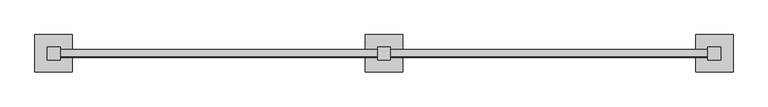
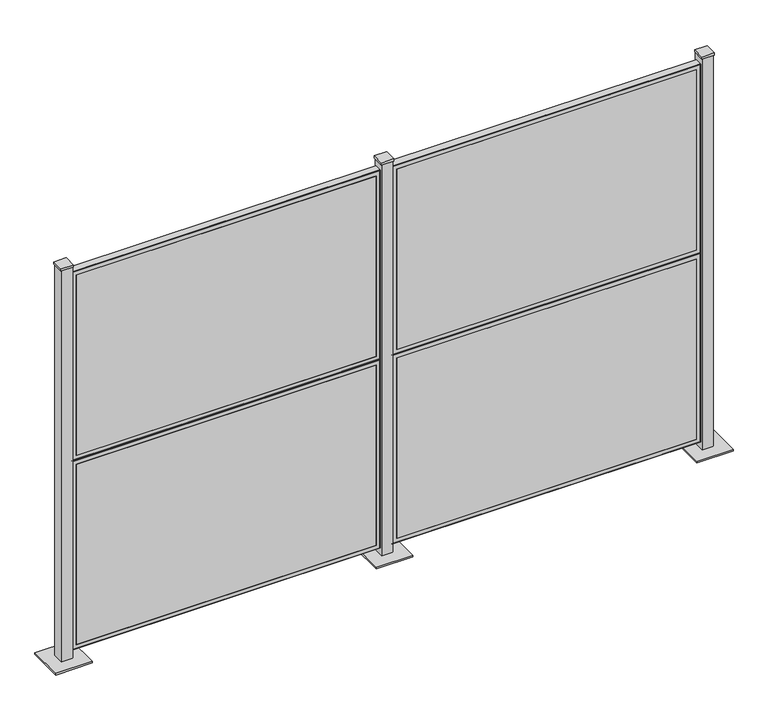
"""IFC4 building model written with IfcOpenShell, lengths in millimetres: proxy geometry, VIVA-Railings_Special-Equipment_Architectural-Fence-&-Landscape-Screens : 68” x 88” - Aluminum 1/8''."""

from ifc_helpers import new_model, si_unit, frame, origin, origin_with_axes, place, context, project, spatial, polyline, ellipse_curve, outline, extrude, source, transform, mapped, element, save
from ifc_brep_helpers import plane_surface, cylinder_surface, revolved_surface, advanced_brep


def specialty_equipment_d36daebb(model_context):
    return source(origin(), model_context, "Body", "SolidModel", [
        extrude(outline(polyline([(3784.6, 101.6), (3784.6, -101.6), (3581.4, -101.6), (3581.4, 101.6), (3784.6, 101.6)])), origin_with_axes(), (0.0, 0.0, 1.0), 9.525),
        extrude(outline(polyline([(3717.925, -34.925), (3648.075, -34.925), (3648.075, 34.925), (3717.925, 34.925), (3717.925, -34.925)])), frame((0.0, 0.0, 2324.1), z_axis=(0.0, 0.0, 1.0), x_axis=(1.0, 0.0, 0.0)), (0.0, 0.0, 1.0), 12.7),
        extrude(outline(polyline([(3651.25, 31.75), (3714.75, 31.75), (3714.75, -31.75), (3651.25, -31.75), (3651.25, 31.75)]), holes=[polyline([(3654.425, -28.575), (3711.575, -28.575), (3711.575, 28.575), (3654.425, 28.575), (3654.425, -28.575)])]), frame((0.0, 0.0, 9.525), z_axis=(0.0, 0.0, 1.0), x_axis=(1.0, 0.0, 0.0)), (0.0, 0.0, 1.0), 2314.575),
        advanced_brep(
        [(3651.25, 22.225, 1168.425), (3651.25, -19.05, 1168.425), (3651.25, -19.05, 50.825), (3651.25, 22.225, 50.825), (3648.075, -17.4625, 1165.25), (3648.075, 22.225, 1165.25), (3648.075, 22.225, 54.0), (3648.075, -17.4625, 54.0), (3646.4875, -19.05, 1163.6625), (3646.4875, -19.05, 55.5875), (3625.85, -22.225, 1143.025), (3625.85, -19.05, 1143.025), (3625.85, -19.05, 76.225), (3625.85, -22.225, 76.225), (3648.075, -22.225, 1165.25), (3648.075, -22.225, 54.0), (1924.05, -19.05, 50.825), (1924.05, 22.225, 50.825), (1927.225, 22.225, 54.0), (1927.225, -17.4625, 54.0), (1928.8125, -19.05, 55.5875), (1949.45, -19.05, 76.225), (1949.45, -22.225, 76.225), (1927.225, -22.225, 54.0), (1924.05, -19.05, 1168.425), (1924.05, 22.225, 1168.425), (1927.225, 22.225, 1165.25), (1927.225, -17.4625, 1165.25), (1928.8125, -19.05, 1163.6625), (1949.45, -19.05, 1143.025), (1949.45, -22.225, 1143.025), (1927.225, -22.225, 1165.25)],
        [
            (0, 1),
            (1, 2),
            (2, 3),
            (3, 0),
            (4, 5),
            (5, 6),
            (6, 7),
            (7, 4),
            (8, 4, ellipse_curve(frame((3646.4875, -17.4625, 1163.6625), z_axis=(-0.7071067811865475, 0.0, 0.7071067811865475), x_axis=(-0.7071067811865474, 0.0, -0.7071067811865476)), 2.245064, 1.5875)),
            (7, 9, ellipse_curve(frame((3646.4875, -17.4625, 55.5875), z_axis=(-0.7071067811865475, 0.0, -0.7071067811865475), x_axis=(0.7071067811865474, 0.0, -0.7071067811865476)), 2.245064, 1.5875)),
            (9, 8),
            (10, 11),
            (11, 12),
            (12, 13),
            (13, 10),
            (1, 14, ellipse_curve(frame((3648.075, -19.05, 1165.25), z_axis=(0.7071067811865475, 0.0, -0.7071067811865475), x_axis=(0.7071067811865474, 0.0, 0.7071067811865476)), 4.4901281, 3.175)),
            (14, 15),
            (15, 2, ellipse_curve(frame((3648.075, -19.05, 54.0), z_axis=(0.7071067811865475, 0.0, 0.7071067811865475), x_axis=(-0.7071067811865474, 0.0, 0.7071067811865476)), 4.4901281, 3.175)),
            (2, 16),
            (16, 17),
            (17, 3),
            (6, 18),
            (18, 19),
            (19, 7),
            (19, 20, ellipse_curve(frame((1928.8125, -17.4625, 55.5875), z_axis=(-0.7071067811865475, 0.0, 0.7071067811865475), x_axis=(-0.7071067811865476, 0.0, -0.7071067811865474)), 2.245064, 1.5875)),
            (20, 9),
            (12, 21),
            (21, 22),
            (22, 13),
            (15, 23),
            (23, 16, ellipse_curve(frame((1927.225, -19.05, 54.0), z_axis=(0.7071067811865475, 0.0, -0.7071067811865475), x_axis=(0.7071067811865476, 0.0, 0.7071067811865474)), 4.4901281, 3.175)),
            (16, 24),
            (24, 25),
            (25, 17),
            (18, 26),
            (26, 27),
            (27, 19),
            (27, 28, ellipse_curve(frame((1928.8125, -17.4625, 1163.6625), z_axis=(0.7071067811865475, 0.0, 0.7071067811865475), x_axis=(-0.7071067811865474, 0.0, 0.7071067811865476)), 2.245064, 1.5875)),
            (28, 20),
            (21, 29),
            (29, 30),
            (30, 22),
            (23, 31),
            (31, 24, ellipse_curve(frame((1927.225, -19.05, 1165.25), z_axis=(-0.7071067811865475, 0.0, -0.7071067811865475), x_axis=(0.7071067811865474, 0.0, -0.7071067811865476)), 4.4901281, 3.175)),
            (24, 1),
            (0, 25),
            (5, 26),
            (4, 27),
            (8, 28),
            (11, 29),
            (10, 30),
            (14, 31),
        ],
        [
            plane_surface(frame((3651.25, -19.05, 1168.425), z_axis=(1.0, 0.0, 0.0), x_axis=(0.0, 0.0, -1.0))),
            plane_surface(frame((3648.075, 22.225, 1165.25), z_axis=(-1.0, 0.0, 0.0), x_axis=(0.0, 0.0, -1.0))),
            revolved_surface(polyline([(3648.0750000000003, -17.4625, 54.0), (3648.0750000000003, -17.4625, 1165.25)]), (3646.4875, -17.4625, 1168.425), (0.0, 0.0, -1.0)),
            plane_surface(frame((3625.85, -19.05, 1143.025), z_axis=(-1.0, 0.0, 0.0), x_axis=(0.0, 0.0, -1.0))),
            cylinder_surface(frame((3648.075, -19.05, 1168.425), z_axis=(0.0, 0.0, 1.0), x_axis=(1.0, 0.0, 0.0)), 3.175),
            plane_surface(frame((3651.25, -19.05, 50.825), z_axis=(0.0, 0.0, -1.0), x_axis=(-1.0, 0.0, 0.0))),
            plane_surface(frame((3648.075, 22.225, 54.0), z_axis=(0.0, 0.0, 1.0), x_axis=(-1.0, 0.0, 0.0))),
            revolved_surface(polyline([(1927.225, -17.4625, 54.0), (3648.075, -17.4625, 54.0)]), (3651.25, -17.4625, 55.5875), (-1.0, 0.0, 0.0)),
            plane_surface(frame((3625.85, -19.05, 76.225), z_axis=(0.0, 0.0, 1.0), x_axis=(-1.0, 0.0, 0.0))),
            cylinder_surface(frame((3651.25, -19.05, 54.0), z_axis=(1.0, 0.0, 0.0), x_axis=(0.0, 0.0, -1.0)), 3.175),
            plane_surface(frame((1924.05, -19.05, 50.825), z_axis=(-1.0, 0.0, 0.0), x_axis=(0.0, 0.0, 1.0))),
            plane_surface(frame((1927.225, 22.225, 54.0), z_axis=(1.0, 0.0, 0.0), x_axis=(0.0, 0.0, 1.0))),
            revolved_surface(polyline([(1927.225, -17.4625, 1165.25), (1927.225, -17.4625, 54.0)]), (1928.8125, -17.4625, 50.825), (0.0, 0.0, 1.0)),
            plane_surface(frame((1949.45, -19.05, 76.225), z_axis=(1.0, 0.0, 0.0), x_axis=(0.0, 0.0, 1.0))),
            cylinder_surface(frame((1927.225, -19.05, 50.825), z_axis=(0.0, 0.0, -1.0), x_axis=(-1.0, 0.0, 0.0)), 3.175),
            plane_surface(frame((1924.05, -19.05, 1168.425), z_axis=(0.0, 0.0, 1.0), x_axis=(1.0, 0.0, 0.0))),
            plane_surface(frame((1924.05, 22.225, 1168.425), z_axis=(0.0, 1.0, 0.0), x_axis=(1.0, 0.0, 0.0))),
            plane_surface(frame((1927.225, 22.225, 1165.25), z_axis=(0.0, 0.0, -1.0), x_axis=(1.0, 0.0, 0.0))),
            revolved_surface(polyline([(3648.075, -17.4625, 1165.25), (1927.225, -17.4625, 1165.25)]), (1924.05, -17.4625, 1163.6625), (1.0, 0.0, 0.0)),
            plane_surface(frame((1928.8125, -19.05, 1163.6625), z_axis=(0.0, 1.0, 0.0), x_axis=(1.0, 0.0, 0.0))),
            plane_surface(frame((1949.45, -19.05, 1143.025), z_axis=(0.0, 0.0, -1.0), x_axis=(1.0, 0.0, 0.0))),
            plane_surface(frame((1949.45, -22.225, 1143.025), z_axis=(0.0, -1.0, 0.0), x_axis=(1.0, 0.0, 0.0))),
            cylinder_surface(frame((1924.05, -19.05, 1165.25), z_axis=(-1.0, 0.0, 0.0), x_axis=(0.0, 0.0, 1.0)), 3.175),
        ],
        [
            (0, [[1, 2, 3, 4]]),
            (1, [[5, 6, 7, 8]]),
            (2, [[9, -8, 10, 11]]),
            (3, [[12, 13, 14, 15]]),
            (4, [[16, 17, 18, -2]]),
            (5, [[-3, 19, 20, 21]]),
            (6, [[-7, 22, 23, 24]]),
            (7, [[-10, -24, 25, 26]]),
            (8, [[-14, 27, 28, 29]]),
            (9, [[-18, 30, 31, -19]]),
            (10, [[-20, 32, 33, 34]]),
            (11, [[-23, 35, 36, 37]]),
            (12, [[-25, -37, 38, 39]]),
            (13, [[-28, 40, 41, 42]]),
            (14, [[-31, 43, 44, -32]]),
            (15, [[-33, 45, -1, 46]]),
            (16, [[-21, -34, -46, -4], [47, -35, -22, -6]]),
            (17, [[-36, -47, -5, 48]]),
            (18, [[-38, -48, -9, 49]]),
            (19, [[-26, -39, -49, -11], [50, -40, -27, -13]]),
            (20, [[-41, -50, -12, 51]]),
            (21, [[52, -43, -30, -17], [-29, -42, -51, -15]]),
            (22, [[-44, -52, -16, -45]]),
        ],
    ),
        advanced_brep(
        [(1860.55, 22.225, 1168.425), (1860.55, -19.05, 1168.425), (1860.55, -19.05, 50.825), (1860.55, 22.225, 50.825), (1857.375, -17.4625, 1165.25), (1857.375, 22.225, 1165.25), (1857.375, 22.225, 54.0), (1857.375, -17.4625, 54.0), (1855.7875, -19.05, 1163.6625), (1855.7875, -19.05, 55.5875), (1835.15, -22.225, 1143.025), (1835.15, -19.05, 1143.025), (1835.15, -19.05, 76.225), (1835.15, -22.225, 76.225), (1857.375, -22.225, 1165.25), (1857.375, -22.225, 54.0), (133.35, -19.05, 50.825), (133.35, 22.225, 50.825), (136.525, 22.225, 54.0), (136.525, -17.4625, 54.0), (138.1125, -19.05, 55.5875), (158.75, -19.05, 76.225), (158.75, -22.225, 76.225), (136.525, -22.225, 54.0), (133.35, -19.05, 1168.425), (133.35, 22.225, 1168.425), (136.525, 22.225, 1165.25), (136.525, -17.4625, 1165.25), (138.1125, -19.05, 1163.6625), (158.75, -19.05, 1143.025), (158.75, -22.225, 1143.025), (136.525, -22.225, 1165.25)],
        [
            (0, 1),
            (1, 2),
            (2, 3),
            (3, 0),
            (4, 5),
            (5, 6),
            (6, 7),
            (7, 4),
            (8, 4, ellipse_curve(frame((1855.7875, -17.4625, 1163.6625), z_axis=(-0.7071067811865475, 0.0, 0.7071067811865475), x_axis=(-0.7071067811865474, 0.0, -0.7071067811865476)), 2.245064, 1.5875)),
            (7, 9, ellipse_curve(frame((1855.7875, -17.4625, 55.5875), z_axis=(-0.7071067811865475, 0.0, -0.7071067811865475), x_axis=(0.7071067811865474, 0.0, -0.7071067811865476)), 2.245064, 1.5875)),
            (9, 8),
            (10, 11),
            (11, 12),
            (12, 13),
            (13, 10),
            (1, 14, ellipse_curve(frame((1857.375, -19.05, 1165.25), z_axis=(0.7071067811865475, 0.0, -0.7071067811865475), x_axis=(0.7071067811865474, 0.0, 0.7071067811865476)), 4.4901281, 3.175)),
            (14, 15),
            (15, 2, ellipse_curve(frame((1857.375, -19.05, 54.0), z_axis=(0.7071067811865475, 0.0, 0.7071067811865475), x_axis=(-0.7071067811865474, 0.0, 0.7071067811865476)), 4.4901281, 3.175)),
            (2, 16),
            (16, 17),
            (17, 3),
            (6, 18),
            (18, 19),
            (19, 7),
            (19, 20, ellipse_curve(frame((138.1125, -17.4625, 55.5875), z_axis=(-0.7071067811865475, 0.0, 0.7071067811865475), x_axis=(-0.7071067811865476, 0.0, -0.7071067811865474)), 2.245064, 1.5875)),
            (20, 9),
            (12, 21),
            (21, 22),
            (22, 13),
            (15, 23),
            (23, 16, ellipse_curve(frame((136.525, -19.05, 54.0), z_axis=(0.7071067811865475, 0.0, -0.7071067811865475), x_axis=(0.7071067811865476, 0.0, 0.7071067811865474)), 4.4901281, 3.175)),
            (16, 24),
            (24, 25),
            (25, 17),
            (18, 26),
            (26, 27),
            (27, 19),
            (27, 28, ellipse_curve(frame((138.1125, -17.4625, 1163.6625), z_axis=(0.7071067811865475, 0.0, 0.7071067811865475), x_axis=(-0.7071067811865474, 0.0, 0.7071067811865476)), 2.245064, 1.5875)),
            (28, 20),
            (21, 29),
            (29, 30),
            (30, 22),
            (23, 31),
            (31, 24, ellipse_curve(frame((136.525, -19.05, 1165.25), z_axis=(-0.7071067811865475, 0.0, -0.7071067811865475), x_axis=(0.7071067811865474, 0.0, -0.7071067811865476)), 4.4901281, 3.175)),
            (24, 1),
            (0, 25),
            (5, 26),
            (4, 27),
            (8, 28),
            (11, 29),
            (10, 30),
            (14, 31),
        ],
        [
            plane_surface(frame((1860.55, -19.05, 1168.425), z_axis=(1.0, 0.0, 0.0), x_axis=(0.0, 0.0, -1.0))),
            plane_surface(frame((1857.375, 22.225, 1165.25), z_axis=(-1.0, 0.0, 0.0), x_axis=(0.0, 0.0, -1.0))),
            revolved_surface(polyline([(1857.375, -17.4625, 54.0), (1857.375, -17.4625, 1165.25)]), (1855.7875, -17.4625, 1168.425), (0.0, 0.0, -1.0)),
            plane_surface(frame((1835.15, -19.05, 1143.025), z_axis=(-1.0, 0.0, 0.0), x_axis=(0.0, 0.0, -1.0))),
            cylinder_surface(frame((1857.375, -19.05, 1168.425), z_axis=(0.0, 0.0, 1.0), x_axis=(1.0, 0.0, 0.0)), 3.175),
            plane_surface(frame((1860.55, -19.05, 50.825), z_axis=(0.0, 0.0, -1.0), x_axis=(-1.0, 0.0, 0.0))),
            plane_surface(frame((1857.375, 22.225, 54.0), z_axis=(0.0, 0.0, 1.0), x_axis=(-1.0, 0.0, 0.0))),
            revolved_surface(polyline([(136.5250000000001, -17.4625, 54.0), (1857.375, -17.4625, 54.0)]), (1860.55, -17.4625, 55.5875), (-1.0, 0.0, 0.0)),
            plane_surface(frame((1835.15, -19.05, 76.225), z_axis=(0.0, 0.0, 1.0), x_axis=(-1.0, 0.0, 0.0))),
            cylinder_surface(frame((1860.55, -19.05, 54.0), z_axis=(1.0, 0.0, 0.0), x_axis=(0.0, 0.0, -1.0)), 3.175),
            plane_surface(frame((133.35, -19.05, 50.825), z_axis=(-1.0, 0.0, 0.0), x_axis=(0.0, 0.0, 1.0))),
            plane_surface(frame((136.525, 22.225, 54.0), z_axis=(1.0, 0.0, 0.0), x_axis=(0.0, 0.0, 1.0))),
            revolved_surface(polyline([(136.525, -17.4625, 1165.25), (136.525, -17.4625, 54.0)]), (138.1125, -17.4625, 50.825), (0.0, 0.0, 1.0)),
            plane_surface(frame((158.75, -19.05, 76.225), z_axis=(1.0, 0.0, 0.0), x_axis=(0.0, 0.0, 1.0))),
            cylinder_surface(frame((136.525, -19.05, 50.825), z_axis=(0.0, 0.0, -1.0), x_axis=(-1.0, 0.0, 0.0)), 3.175),
            plane_surface(frame((133.35, -19.05, 1168.425), z_axis=(0.0, 0.0, 1.0), x_axis=(1.0, 0.0, 0.0))),
            plane_surface(frame((133.35, 22.225, 1168.425), z_axis=(0.0, 1.0, 0.0), x_axis=(1.0, 0.0, 0.0))),
            plane_surface(frame((136.525, 22.225, 1165.25), z_axis=(0.0, 0.0, -1.0), x_axis=(1.0, 0.0, 0.0))),
            revolved_surface(polyline([(1857.375, -17.4625, 1165.25), (136.525, -17.4625, 1165.25)]), (133.35, -17.4625, 1163.6625), (1.0, 0.0, 0.0)),
            plane_surface(frame((138.1125, -19.05, 1163.6625), z_axis=(0.0, 1.0, 0.0), x_axis=(1.0, 0.0, 0.0))),
            plane_surface(frame((158.75, -19.05, 1143.025), z_axis=(0.0, 0.0, -1.0), x_axis=(1.0, 0.0, 0.0))),
            plane_surface(frame((158.75, -22.225, 1143.025), z_axis=(0.0, -1.0, 0.0), x_axis=(1.0, 0.0, 0.0))),
            cylinder_surface(frame((133.35, -19.05, 1165.25), z_axis=(-1.0, 0.0, 0.0), x_axis=(0.0, 0.0, 1.0)), 3.175),
        ],
        [
            (0, [[1, 2, 3, 4]]),
            (1, [[5, 6, 7, 8]]),
            (2, [[9, -8, 10, 11]]),
            (3, [[12, 13, 14, 15]]),
            (4, [[16, 17, 18, -2]]),
            (5, [[-3, 19, 20, 21]]),
            (6, [[-7, 22, 23, 24]]),
            (7, [[-10, -24, 25, 26]]),
            (8, [[-14, 27, 28, 29]]),
            (9, [[-18, 30, 31, -19]]),
            (10, [[-20, 32, 33, 34]]),
            (11, [[-23, 35, 36, 37]]),
            (12, [[-25, -37, 38, 39]]),
            (13, [[-28, 40, 41, 42]]),
            (14, [[-31, 43, 44, -32]]),
            (15, [[-33, 45, -1, 46]]),
            (16, [[-21, -34, -46, -4], [47, -35, -22, -6]]),
            (17, [[-36, -47, -5, 48]]),
            (18, [[-38, -48, -9, 49]]),
            (19, [[-26, -39, -49, -11], [50, -40, -27, -13]]),
            (20, [[-41, -50, -12, 51]]),
            (21, [[52, -43, -30, -17], [-29, -42, -51, -15]]),
            (22, [[-44, -52, -16, -45]]),
        ],
    ),
        extrude(outline(polyline([(3625.85, -22.225), (1949.45, -22.225), (1949.45, -19.05), (3625.85, -19.05), (3625.85, -22.225)])), frame((0.0, 0.0, 1193.8), z_axis=(0.0, 0.0, 1.0), x_axis=(1.0, 0.0, 0.0)), (0.0, 0.0, 1.0), 1066.8),
        extrude(outline(polyline([(3625.85, -22.225), (1949.45, -22.225), (1949.45, -19.05), (3625.85, -19.05), (3625.85, -22.225)])), frame((0.0, 0.0, 76.225), z_axis=(0.0, 0.0, 1.0), x_axis=(1.0, 0.0, 0.0)), (0.0, 0.0, 1.0), 1066.8),
        advanced_brep(
        [(3651.25, 22.225, 2286.0), (3651.25, -19.05, 2286.0), (3651.25, -19.05, 1168.4), (3651.25, 22.225, 1168.4), (3648.075, -17.4625, 2282.825), (3648.075, 22.225, 2282.825), (3648.075, 22.225, 1171.575), (3648.075, -17.4625, 1171.575), (3646.4875, -19.05, 2281.2375), (3646.4875, -19.05, 1173.1625), (3625.85, -22.225, 2260.6), (3625.85, -19.05, 2260.6), (3625.85, -19.05, 1193.8), (3625.85, -22.225, 1193.8), (3648.075, -22.225, 2282.825), (3648.075, -22.225, 1171.575), (1924.05, -19.05, 1168.4), (1924.05, 22.225, 1168.4), (1927.225, 22.225, 1171.575), (1927.225, -17.4625, 1171.575), (1928.8125, -19.05, 1173.1625), (1949.45, -19.05, 1193.8), (1949.45, -22.225, 1193.8), (1927.225, -22.225, 1171.575), (1924.05, -19.05, 2286.0), (1924.05, 22.225, 2286.0), (1927.225, 22.225, 2282.825), (1927.225, -17.4625, 2282.825), (1928.8125, -19.05, 2281.2375), (1949.45, -19.05, 2260.6), (1949.45, -22.225, 2260.6), (1927.225, -22.225, 2282.825)],
        [
            (0, 1),
            (1, 2),
            (2, 3),
            (3, 0),
            (4, 5),
            (5, 6),
            (6, 7),
            (7, 4),
            (8, 4, ellipse_curve(frame((3646.4875, -17.4625, 2281.2375), z_axis=(-0.7071067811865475, 0.0, 0.7071067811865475), x_axis=(-0.7071067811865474, 0.0, -0.7071067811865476)), 2.245064, 1.5875)),
            (7, 9, ellipse_curve(frame((3646.4875, -17.4625, 1173.1625), z_axis=(-0.7071067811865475, 0.0, -0.7071067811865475), x_axis=(0.7071067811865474, 0.0, -0.7071067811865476)), 2.245064, 1.5875)),
            (9, 8),
            (10, 11),
            (11, 12),
            (12, 13),
            (13, 10),
            (1, 14, ellipse_curve(frame((3648.075, -19.05, 2282.825), z_axis=(0.7071067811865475, 0.0, -0.7071067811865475), x_axis=(0.7071067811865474, 0.0, 0.7071067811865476)), 4.4901281, 3.175)),
            (14, 15),
            (15, 2, ellipse_curve(frame((3648.075, -19.05, 1171.575), z_axis=(0.7071067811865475, 0.0, 0.7071067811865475), x_axis=(-0.7071067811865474, 0.0, 0.7071067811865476)), 4.4901281, 3.175)),
            (2, 16),
            (16, 17),
            (17, 3),
            (6, 18),
            (18, 19),
            (19, 7),
            (19, 20, ellipse_curve(frame((1928.8125, -17.4625, 1173.1625), z_axis=(-0.7071067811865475, 0.0, 0.7071067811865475), x_axis=(-0.7071067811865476, 0.0, -0.7071067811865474)), 2.245064, 1.5875)),
            (20, 9),
            (12, 21),
            (21, 22),
            (22, 13),
            (15, 23),
            (23, 16, ellipse_curve(frame((1927.225, -19.05, 1171.575), z_axis=(0.7071067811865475, 0.0, -0.7071067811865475), x_axis=(0.7071067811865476, 0.0, 0.7071067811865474)), 4.4901281, 3.175)),
            (16, 24),
            (24, 25),
            (25, 17),
            (18, 26),
            (26, 27),
            (27, 19),
            (27, 28, ellipse_curve(frame((1928.8125, -17.4625, 2281.2375), z_axis=(0.7071067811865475, 0.0, 0.7071067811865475), x_axis=(-0.7071067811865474, 0.0, 0.7071067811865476)), 2.245064, 1.5875)),
            (28, 20),
            (21, 29),
            (29, 30),
            (30, 22),
            (23, 31),
            (31, 24, ellipse_curve(frame((1927.225, -19.05, 2282.825), z_axis=(-0.7071067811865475, 0.0, -0.7071067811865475), x_axis=(0.7071067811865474, 0.0, -0.7071067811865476)), 4.4901281, 3.175)),
            (24, 1),
            (0, 25),
            (5, 26),
            (4, 27),
            (8, 28),
            (11, 29),
            (10, 30),
            (14, 31),
        ],
        [
            plane_surface(frame((3651.25, -19.05, 2286.0), z_axis=(1.0, 0.0, 0.0), x_axis=(0.0, 0.0, -1.0))),
            plane_surface(frame((3648.075, 22.225, 2282.825), z_axis=(-1.0, 0.0, 0.0), x_axis=(0.0, 0.0, -1.0))),
            revolved_surface(polyline([(3648.0750000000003, -17.4625, 1171.575), (3648.0750000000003, -17.4625, 2282.825)]), (3646.4875, -17.4625, 2286.0), (0.0, 0.0, -1.0)),
            plane_surface(frame((3625.85, -19.05, 2260.6), z_axis=(-1.0, 0.0, 0.0), x_axis=(0.0, 0.0, -1.0))),
            cylinder_surface(frame((3648.075, -19.05, 2286.0), z_axis=(0.0, 0.0, 1.0), x_axis=(1.0, 0.0, 0.0)), 3.175),
            plane_surface(frame((3651.25, -19.05, 1168.4), z_axis=(0.0, 0.0, -1.0), x_axis=(-1.0, 0.0, 0.0))),
            plane_surface(frame((3648.075, 22.225, 1171.575), z_axis=(0.0, 0.0, 1.0), x_axis=(-1.0, 0.0, 0.0))),
            revolved_surface(polyline([(1927.225, -17.4625, 1171.5749999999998), (3648.075, -17.4625, 1171.5749999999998)]), (3651.25, -17.4625, 1173.1625), (-1.0, 0.0, 0.0)),
            plane_surface(frame((3625.85, -19.05, 1193.8), z_axis=(0.0, 0.0, 1.0), x_axis=(-1.0, 0.0, 0.0))),
            cylinder_surface(frame((3651.25, -19.05, 1171.575), z_axis=(1.0, 0.0, 0.0), x_axis=(0.0, 0.0, -1.0)), 3.175),
            plane_surface(frame((1924.05, -19.05, 1168.4), z_axis=(-1.0, 0.0, 0.0), x_axis=(0.0, 0.0, 1.0))),
            plane_surface(frame((1927.225, 22.225, 1171.575), z_axis=(1.0, 0.0, 0.0), x_axis=(0.0, 0.0, 1.0))),
            revolved_surface(polyline([(1927.225, -17.4625, 2282.825), (1927.225, -17.4625, 1171.575)]), (1928.8125, -17.4625, 1168.4), (0.0, 0.0, 1.0)),
            plane_surface(frame((1949.45, -19.05, 1193.8), z_axis=(1.0, 0.0, 0.0), x_axis=(0.0, 0.0, 1.0))),
            cylinder_surface(frame((1927.225, -19.05, 1168.4), z_axis=(0.0, 0.0, -1.0), x_axis=(-1.0, 0.0, 0.0)), 3.175),
            plane_surface(frame((1924.05, -19.05, 2286.0), z_axis=(0.0, 0.0, 1.0), x_axis=(1.0, 0.0, 0.0))),
            plane_surface(frame((1924.05, 22.225, 2286.0), z_axis=(0.0, 1.0, 0.0), x_axis=(1.0, 0.0, 0.0))),
            plane_surface(frame((1927.225, 22.225, 2282.825), z_axis=(0.0, 0.0, -1.0), x_axis=(1.0, 0.0, 0.0))),
            revolved_surface(polyline([(3648.075, -17.4625, 2282.8250000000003), (1927.225, -17.4625, 2282.8250000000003)]), (1924.05, -17.4625, 2281.2375), (1.0, 0.0, 0.0)),
            plane_surface(frame((1928.8125, -19.05, 2281.2375), z_axis=(0.0, 1.0, 0.0), x_axis=(1.0, 0.0, 0.0))),
            plane_surface(frame((1949.45, -19.05, 2260.6), z_axis=(0.0, 0.0, -1.0), x_axis=(1.0, 0.0, 0.0))),
            plane_surface(frame((1949.45, -22.225, 2260.6), z_axis=(0.0, -1.0, 0.0), x_axis=(1.0, 0.0, 0.0))),
            cylinder_surface(frame((1924.05, -19.05, 2282.825), z_axis=(-1.0, 0.0, 0.0), x_axis=(0.0, 0.0, 1.0)), 3.175),
        ],
        [
            (0, [[1, 2, 3, 4]]),
            (1, [[5, 6, 7, 8]]),
            (2, [[9, -8, 10, 11]]),
            (3, [[12, 13, 14, 15]]),
            (4, [[16, 17, 18, -2]]),
            (5, [[-3, 19, 20, 21]]),
            (6, [[-7, 22, 23, 24]]),
            (7, [[-10, -24, 25, 26]]),
            (8, [[-14, 27, 28, 29]]),
            (9, [[-18, 30, 31, -19]]),
            (10, [[-20, 32, 33, 34]]),
            (11, [[-23, 35, 36, 37]]),
            (12, [[-25, -37, 38, 39]]),
            (13, [[-28, 40, 41, 42]]),
            (14, [[-31, 43, 44, -32]]),
            (15, [[-33, 45, -1, 46]]),
            (16, [[-21, -34, -46, -4], [47, -35, -22, -6]]),
            (17, [[-36, -47, -5, 48]]),
            (18, [[-38, -48, -9, 49]]),
            (19, [[-26, -39, -49, -11], [50, -40, -27, -13]]),
            (20, [[-41, -50, -12, 51]]),
            (21, [[52, -43, -30, -17], [-29, -42, -51, -15]]),
            (22, [[-44, -52, -16, -45]]),
        ],
    ),
        extrude(outline(polyline([(1835.15, -22.225), (158.75, -22.225), (158.75, -19.05), (1835.15, -19.05), (1835.15, -22.225)])), frame((0.0, 0.0, 1193.8), z_axis=(0.0, 0.0, 1.0), x_axis=(1.0, 0.0, 0.0)), (0.0, 0.0, 1.0), 1066.8),
        extrude(outline(polyline([(1835.15, -22.225), (158.75, -22.225), (158.75, -19.05), (1835.15, -19.05), (1835.15, -22.225)])), frame((0.0, 0.0, 76.225), z_axis=(0.0, 0.0, 1.0), x_axis=(1.0, 0.0, 0.0)), (0.0, 0.0, 1.0), 1066.8),
        extrude(outline(polyline([(1993.9, 101.6), (1993.9, -101.6), (1790.7, -101.6), (1790.7, 101.6), (1993.9, 101.6)])), origin_with_axes(), (0.0, 0.0, 1.0), 9.525),
        extrude(outline(polyline([(203.2, 101.6), (203.2, -101.6), (0.0, -101.6), (0.0, 101.6), (203.2, 101.6)])), origin_with_axes(), (0.0, 0.0, 1.0), 9.525),
        extrude(outline(polyline([(1927.225, -34.925), (1857.375, -34.925), (1857.375, 34.925), (1927.225, 34.925), (1927.225, -34.925)])), frame((0.0, 0.0, 2324.1), z_axis=(0.0, 0.0, 1.0), x_axis=(1.0, 0.0, 0.0)), (0.0, 0.0, 1.0), 12.7),
        extrude(outline(polyline([(1860.55, 31.75), (1924.05, 31.75), (1924.05, -31.75), (1860.55, -31.75), (1860.55, 31.75)]), holes=[polyline([(1863.725, -28.575), (1920.875, -28.575), (1920.875, 28.575), (1863.725, 28.575), (1863.725, -28.575)])]), frame((0.0, 0.0, 9.525), z_axis=(0.0, 0.0, 1.0), x_axis=(1.0, 0.0, 0.0)), (0.0, 0.0, 1.0), 2314.575),
        advanced_brep(
        [(1860.55, 22.225, 2286.0), (1860.55, -19.05, 2286.0), (1860.55, -19.05, 1168.4), (1860.55, 22.225, 1168.4), (1857.375, -17.4625, 2282.825), (1857.375, 22.225, 2282.825), (1857.375, 22.225, 1171.575), (1857.375, -17.4625, 1171.575), (1855.7875, -19.05, 2281.2375), (1855.7875, -19.05, 1173.1625), (1835.15, -22.225, 2260.6), (1835.15, -19.05, 2260.6), (1835.15, -19.05, 1193.8), (1835.15, -22.225, 1193.8), (1857.375, -22.225, 2282.825), (1857.375, -22.225, 1171.575), (133.35, -19.05, 1168.4), (133.35, 22.225, 1168.4), (136.525, 22.225, 1171.575), (136.525, -17.4625, 1171.575), (138.1125, -19.05, 1173.1625), (158.75, -19.05, 1193.8), (158.75, -22.225, 1193.8), (136.525, -22.225, 1171.575), (133.35, -19.05, 2286.0), (133.35, 22.225, 2286.0), (136.525, 22.225, 2282.825), (136.525, -17.4625, 2282.825), (138.1125, -19.05, 2281.2375), (158.75, -19.05, 2260.6), (158.75, -22.225, 2260.6), (136.525, -22.225, 2282.825)],
        [
            (0, 1),
            (1, 2),
            (2, 3),
            (3, 0),
            (4, 5),
            (5, 6),
            (6, 7),
            (7, 4),
            (8, 4, ellipse_curve(frame((1855.7875, -17.4625, 2281.2375), z_axis=(-0.7071067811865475, 0.0, 0.7071067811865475), x_axis=(-0.7071067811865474, 0.0, -0.7071067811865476)), 2.245064, 1.5875)),
            (7, 9, ellipse_curve(frame((1855.7875, -17.4625, 1173.1625), z_axis=(-0.7071067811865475, 0.0, -0.7071067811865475), x_axis=(0.7071067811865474, 0.0, -0.7071067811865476)), 2.245064, 1.5875)),
            (9, 8),
            (10, 11),
            (11, 12),
            (12, 13),
            (13, 10),
            (1, 14, ellipse_curve(frame((1857.375, -19.05, 2282.825), z_axis=(0.7071067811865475, 0.0, -0.7071067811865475), x_axis=(0.7071067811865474, 0.0, 0.7071067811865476)), 4.4901281, 3.175)),
            (14, 15),
            (15, 2, ellipse_curve(frame((1857.375, -19.05, 1171.575), z_axis=(0.7071067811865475, 0.0, 0.7071067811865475), x_axis=(-0.7071067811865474, 0.0, 0.7071067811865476)), 4.4901281, 3.175)),
            (2, 16),
            (16, 17),
            (17, 3),
            (6, 18),
            (18, 19),
            (19, 7),
            (19, 20, ellipse_curve(frame((138.1125, -17.4625, 1173.1625), z_axis=(-0.7071067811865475, 0.0, 0.7071067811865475), x_axis=(-0.7071067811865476, 0.0, -0.7071067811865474)), 2.245064, 1.5875)),
            (20, 9),
            (12, 21),
            (21, 22),
            (22, 13),
            (15, 23),
            (23, 16, ellipse_curve(frame((136.525, -19.05, 1171.575), z_axis=(0.7071067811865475, 0.0, -0.7071067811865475), x_axis=(0.7071067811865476, 0.0, 0.7071067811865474)), 4.4901281, 3.175)),
            (16, 24),
            (24, 25),
            (25, 17),
            (18, 26),
            (26, 27),
            (27, 19),
            (27, 28, ellipse_curve(frame((138.1125, -17.4625, 2281.2375), z_axis=(0.7071067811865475, 0.0, 0.7071067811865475), x_axis=(-0.7071067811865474, 0.0, 0.7071067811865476)), 2.245064, 1.5875)),
            (28, 20),
            (21, 29),
            (29, 30),
            (30, 22),
            (23, 31),
            (31, 24, ellipse_curve(frame((136.525, -19.05, 2282.825), z_axis=(-0.7071067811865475, 0.0, -0.7071067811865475), x_axis=(0.7071067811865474, 0.0, -0.7071067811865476)), 4.4901281, 3.175)),
            (24, 1),
            (0, 25),
            (5, 26),
            (4, 27),
            (8, 28),
            (11, 29),
            (10, 30),
            (14, 31),
        ],
        [
            plane_surface(frame((1860.55, -19.05, 2286.0), z_axis=(1.0, 0.0, 0.0), x_axis=(0.0, 0.0, -1.0))),
            plane_surface(frame((1857.375, 22.225, 2282.825), z_axis=(-1.0, 0.0, 0.0), x_axis=(0.0, 0.0, -1.0))),
            revolved_surface(polyline([(1857.375, -17.4625, 1171.575), (1857.375, -17.4625, 2282.825)]), (1855.7875, -17.4625, 2286.0), (0.0, 0.0, -1.0)),
            plane_surface(frame((1835.15, -19.05, 2260.6), z_axis=(-1.0, 0.0, 0.0), x_axis=(0.0, 0.0, -1.0))),
            cylinder_surface(frame((1857.375, -19.05, 2286.0), z_axis=(0.0, 0.0, 1.0), x_axis=(1.0, 0.0, 0.0)), 3.175),
            plane_surface(frame((1860.55, -19.05, 1168.4), z_axis=(0.0, 0.0, -1.0), x_axis=(-1.0, 0.0, 0.0))),
            plane_surface(frame((1857.375, 22.225, 1171.575), z_axis=(0.0, 0.0, 1.0), x_axis=(-1.0, 0.0, 0.0))),
            revolved_surface(polyline([(136.5250000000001, -17.4625, 1171.5749999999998), (1857.375, -17.4625, 1171.5749999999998)]), (1860.55, -17.4625, 1173.1625), (-1.0, 0.0, 0.0)),
            plane_surface(frame((1835.15, -19.05, 1193.8), z_axis=(0.0, 0.0, 1.0), x_axis=(-1.0, 0.0, 0.0))),
            cylinder_surface(frame((1860.55, -19.05, 1171.575), z_axis=(1.0, 0.0, 0.0), x_axis=(0.0, 0.0, -1.0)), 3.175),
            plane_surface(frame((133.35, -19.05, 1168.4), z_axis=(-1.0, 0.0, 0.0), x_axis=(0.0, 0.0, 1.0))),
            plane_surface(frame((136.525, 22.225, 1171.575), z_axis=(1.0, 0.0, 0.0), x_axis=(0.0, 0.0, 1.0))),
            revolved_surface(polyline([(136.525, -17.4625, 2282.825), (136.525, -17.4625, 1171.575)]), (138.1125, -17.4625, 1168.4), (0.0, 0.0, 1.0)),
            plane_surface(frame((158.75, -19.05, 1193.8), z_axis=(1.0, 0.0, 0.0), x_axis=(0.0, 0.0, 1.0))),
            cylinder_surface(frame((136.525, -19.05, 1168.4), z_axis=(0.0, 0.0, -1.0), x_axis=(-1.0, 0.0, 0.0)), 3.175),
            plane_surface(frame((133.35, -19.05, 2286.0), z_axis=(0.0, 0.0, 1.0), x_axis=(1.0, 0.0, 0.0))),
            plane_surface(frame((133.35, 22.225, 2286.0), z_axis=(0.0, 1.0, 0.0), x_axis=(1.0, 0.0, 0.0))),
            plane_surface(frame((136.525, 22.225, 2282.825), z_axis=(0.0, 0.0, -1.0), x_axis=(1.0, 0.0, 0.0))),
            revolved_surface(polyline([(1857.375, -17.4625, 2282.8250000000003), (136.525, -17.4625, 2282.8250000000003)]), (133.35, -17.4625, 2281.2375), (1.0, 0.0, 0.0)),
            plane_surface(frame((138.1125, -19.05, 2281.2375), z_axis=(0.0, 1.0, 0.0), x_axis=(1.0, 0.0, 0.0))),
            plane_surface(frame((158.75, -19.05, 2260.6), z_axis=(0.0, 0.0, -1.0), x_axis=(1.0, 0.0, 0.0))),
            plane_surface(frame((158.75, -22.225, 2260.6), z_axis=(0.0, -1.0, 0.0), x_axis=(1.0, 0.0, 0.0))),
            cylinder_surface(frame((133.35, -19.05, 2282.825), z_axis=(-1.0, 0.0, 0.0), x_axis=(0.0, 0.0, 1.0)), 3.175),
        ],
        [
            (0, [[1, 2, 3, 4]]),
            (1, [[5, 6, 7, 8]]),
            (2, [[9, -8, 10, 11]]),
            (3, [[12, 13, 14, 15]]),
            (4, [[16, 17, 18, -2]]),
            (5, [[-3, 19, 20, 21]]),
            (6, [[-7, 22, 23, 24]]),
            (7, [[-10, -24, 25, 26]]),
            (8, [[-14, 27, 28, 29]]),
            (9, [[-18, 30, 31, -19]]),
            (10, [[-20, 32, 33, 34]]),
            (11, [[-23, 35, 36, 37]]),
            (12, [[-25, -37, 38, 39]]),
            (13, [[-28, 40, 41, 42]]),
            (14, [[-31, 43, 44, -32]]),
            (15, [[-33, 45, -1, 46]]),
            (16, [[-21, -34, -46, -4], [47, -35, -22, -6]]),
            (17, [[-36, -47, -5, 48]]),
            (18, [[-38, -48, -9, 49]]),
            (19, [[-26, -39, -49, -11], [50, -40, -27, -13]]),
            (20, [[-41, -50, -12, 51]]),
            (21, [[52, -43, -30, -17], [-29, -42, -51, -15]]),
            (22, [[-44, -52, -16, -45]]),
        ],
    ),
        extrude(outline(polyline([(136.525, -34.925), (66.675, -34.925), (66.675, 34.925), (136.525, 34.925), (136.525, -34.925)])), frame((0.0, 0.0, 2324.1), z_axis=(0.0, 0.0, 1.0), x_axis=(1.0, 0.0, 0.0)), (0.0, 0.0, 1.0), 12.7),
        extrude(outline(polyline([(69.85, 31.75), (133.35, 31.75), (133.35, -31.75), (69.85, -31.75), (69.85, 31.75)]), holes=[polyline([(73.025, -28.575), (130.175, -28.575), (130.175, 28.575), (73.025, 28.575), (73.025, -28.575)])]), frame((0.0, 0.0, 9.525), z_axis=(0.0, 0.0, 1.0), x_axis=(1.0, 0.0, 0.0)), (0.0, 0.0, 1.0), 2314.575),
    ])


if __name__ == "__main__":
    model = new_model("IFC4")
    model_context = context("Model", 3, world=origin())
    ifc_project = project(units=[si_unit("LENGTHUNIT", "METRE", prefix="MILLI")], contexts=[model_context])
    site = spatial("IfcSite", under=ifc_project)
    building = spatial("IfcBuilding", under=site)
    placement = place(None, origin())
    specialty_equipment_shape = specialty_equipment_d36daebb(model_context)
    element("IfcBuildingElementProxy", 1, Name="VIVA-Railings_Special-Equipment_Architectural-Fence-&-Landscape-Screens : 68” x 88” - Aluminum 1/8''", ObjectType="VIVA-Railings_Special-Equipment_Architectural-Fence-&-Landscape-Screens : 68” x 88” - Aluminum 1/8''", at=placement, inside=building, context=model_context, shape_type="MappedRepresentation", body=[
        mapped(specialty_equipment_shape, transform((0.0, 0.0, 0.0), x_axis=(1.0, 0.0, 0.0), y_axis=(0.0, 1.0, 0.0), z_axis=(0.0, 0.0, 1.0))),
    ])
    save(model, "model.ifc")
